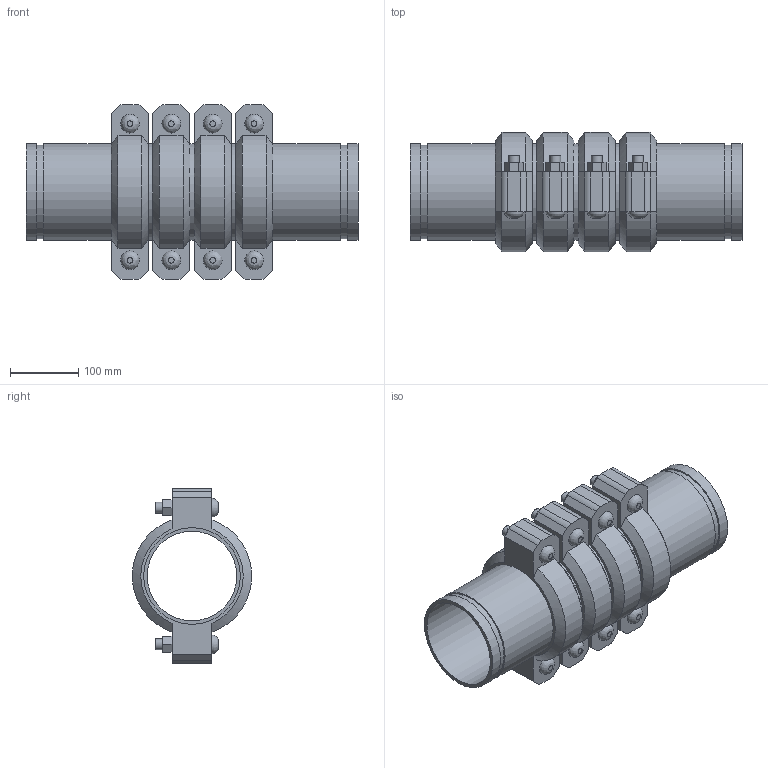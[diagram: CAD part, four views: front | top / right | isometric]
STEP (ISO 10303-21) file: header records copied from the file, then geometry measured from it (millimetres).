
FILE_DESCRIPTION(/* description */ ('VIC EXPANSION JOINT 4 COUPLINGS COMPRESSED STYLE 155 (OGS)','CAx-IF Rec.Pracs.---Representation and Presentation of Product Manufacturing Information (PMI)---4.0---2014-10-13'),/* implementation_level */ '2;1');
FILE_NAME(/* name */ 'C:\Users\kkamble\AppData\Roaming\Autodesk\ApplicationPlugins\Victaulic.Temp\A318\Victaulic_IPS_Expansion Joint_Compressed_4 Couplings_Style 155 (OGS)_5 (125).stp',/* time_stamp */ '2021-06-27T00:27:40+02:00',/* author */ ('kkamble'),/* organization */ ('Victaulic'),/* preprocessor_version */ 'ST-DEVELOPER v17.2',/* originating_system */ 'Autodesk Inventor 2019',/* authorisation */ '');
FILE_SCHEMA (('AP242_MANAGED_MODEL_BASED_3D_ENGINEERING_MIM_LF { 1 0 10303 442 1 1 4 }'));
Length unit declared in the file: inch
Products named in the file (4): 155-05.0; Nipple-05.0; Nipple-05.0_1; 075_4_Coup-05.0
Assembly tree (9 placements, depth 2):
  155-05.0
    Nipple-05.0  x2
    Nipple-05.0_1  x3
    075_4_Coup-05.0  x4
Bounding box: 485.39 x 174.16 x 255.78 mm (x, y, z)
Volume: 3656077.9 mm3; surface area: 858813.3 mm2
Topology: 9 solids, 17 shells, 288 faces, 682 edges, 480 vertices
Faces by surface type: plane 174, cylinder 90, cone 16, bspline 8
Full cylindrical faces by diameter (mm): 15.875 x16, 17.424 x8, 130.988 x5, 134.95 x4, 137.033 x10, 141.3 x23
Entity records: 2794 total; most frequent: CARTESIAN_POINT 493, DIRECTION 461, ORIENTED_EDGE 386, EDGE_CURVE 193, AXIS2_PLACEMENT_3D 184, VERTEX_POINT 138, EDGE_LOOP 107, LINE 93
